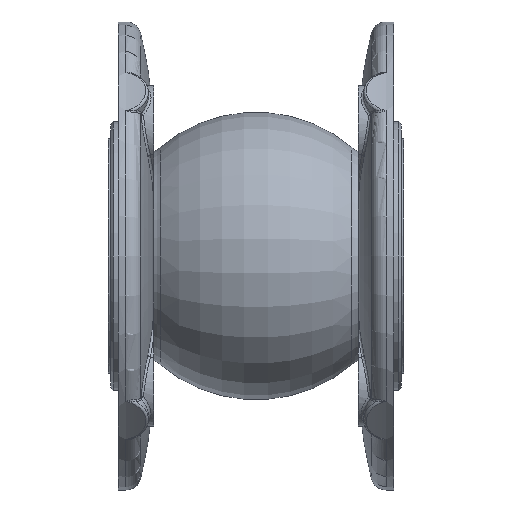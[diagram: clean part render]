
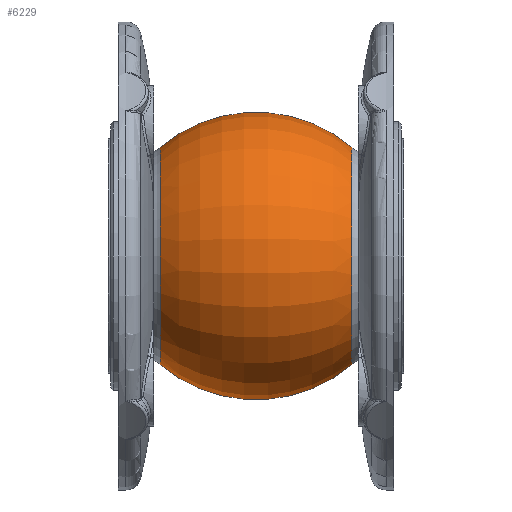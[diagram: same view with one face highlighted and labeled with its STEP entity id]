
A CAD part, left-side view. The second image highlights one B-rep face of the part: STEP entity #6229.
In plain terms, the highlighted toroidal (fillet/blend) face has major radius 1.566 mm and minor radius 58.393 mm.
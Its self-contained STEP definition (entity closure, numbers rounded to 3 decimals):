
#736 = CARTESIAN_POINT ( 'NONE',  ( 0., 57.5, 1.566 ) ) ;
#765 = VERTEX_POINT ( 'NONE', #1131 ) ;
#1131 = CARTESIAN_POINT ( 'NONE',  ( 0., 19.636, 42.887 ) ) ;
#1305 = EDGE_CURVE ( 'NONE', #765, #7162, #6148, .T. ) ;
#1533 = AXIS2_PLACEMENT_3D ( 'NONE', #3841, #6152, #9109 ) ;
#1679 = FACE_OUTER_BOUND ( 'NONE', #5761, .T. ) ;
#2971 = CARTESIAN_POINT ( 'NONE',  ( 0., 19.636, 0. ) ) ;
#3841 = CARTESIAN_POINT ( 'NONE',  ( 0., 95.364, 0. ) ) ;
#4199 = CARTESIAN_POINT ( 'NONE',  ( 0., 95.364, 42.887 ) ) ;
#4404 = AXIS2_PLACEMENT_3D ( 'NONE', #9060, #8144, #6833 ) ;
#4560 = CIRCLE ( 'NONE', #4404, 58.393 ) ;
#4678 = AXIS2_PLACEMENT_3D ( 'NONE', #736, #8081, #8849 ) ;
#4761 = CARTESIAN_POINT ( 'NONE',  ( 0., 95.364, -42.887 ) ) ;
#4829 = ORIENTED_EDGE ( 'NONE', *, *, #1305, .F. ) ;
#4861 = AXIS2_PLACEMENT_3D ( 'NONE', #2971, #8156, #5927 ) ;
#5402 = EDGE_CURVE ( 'NONE', #8175, #7295, #5706, .T. ) ;
#5566 = TOROIDAL_SURFACE ( 'NONE', #9278, -1.566, 58.393 ) ;
#5706 = CIRCLE ( 'NONE', #1533, 42.887 ) ;
#5761 = EDGE_LOOP ( 'NONE', ( #8355, #8864, #7696, #4829 ) ) ;
#5927 = DIRECTION ( 'NONE',  ( 0., 0., -1. ) ) ;
#6148 = CIRCLE ( 'NONE', #4861, 42.887 ) ;
#6152 = DIRECTION ( 'NONE',  ( 0., -1., 0. ) ) ;
#6229 = ADVANCED_FACE ( 'NONE', ( #1679 ), #5566, .T. ) ;
#6833 = DIRECTION ( 'NONE',  ( 0., 0., -1. ) ) ;
#7084 = CARTESIAN_POINT ( 'NONE',  ( 0., 19.636, -42.887 ) ) ;
#7162 = VERTEX_POINT ( 'NONE', #7084 ) ;
#7295 = VERTEX_POINT ( 'NONE', #4761 ) ;
#7696 = ORIENTED_EDGE ( 'NONE', *, *, #8544, .T. ) ;
#8081 = DIRECTION ( 'NONE',  ( -1., 0., 0. ) ) ;
#8144 = DIRECTION ( 'NONE',  ( 1., 0., 0. ) ) ;
#8156 = DIRECTION ( 'NONE',  ( 0., -1., 0. ) ) ;
#8175 = VERTEX_POINT ( 'NONE', #4199 ) ;
#8355 = ORIENTED_EDGE ( 'NONE', *, *, #9268, .F. ) ;
#8402 = DIRECTION ( 'NONE',  ( 0., -1., 0. ) ) ;
#8544 = EDGE_CURVE ( 'NONE', #7295, #7162, #8841, .T. ) ;
#8841 = CIRCLE ( 'NONE', #4678, 58.393 ) ;
#8849 = DIRECTION ( 'NONE',  ( 0., 0., 1. ) ) ;
#8864 = ORIENTED_EDGE ( 'NONE', *, *, #5402, .T. ) ;
#8991 = DIRECTION ( 'NONE',  ( 0., 0., -1. ) ) ;
#9060 = CARTESIAN_POINT ( 'NONE',  ( 0., 57.5, -1.566 ) ) ;
#9109 = DIRECTION ( 'NONE',  ( 0., 0., -1. ) ) ;
#9134 = CARTESIAN_POINT ( 'NONE',  ( 0., 57.5, 0. ) ) ;
#9268 = EDGE_CURVE ( 'NONE', #8175, #765, #4560, .T. ) ;
#9278 = AXIS2_PLACEMENT_3D ( 'NONE', #9134, #8402, #8991 ) ;
